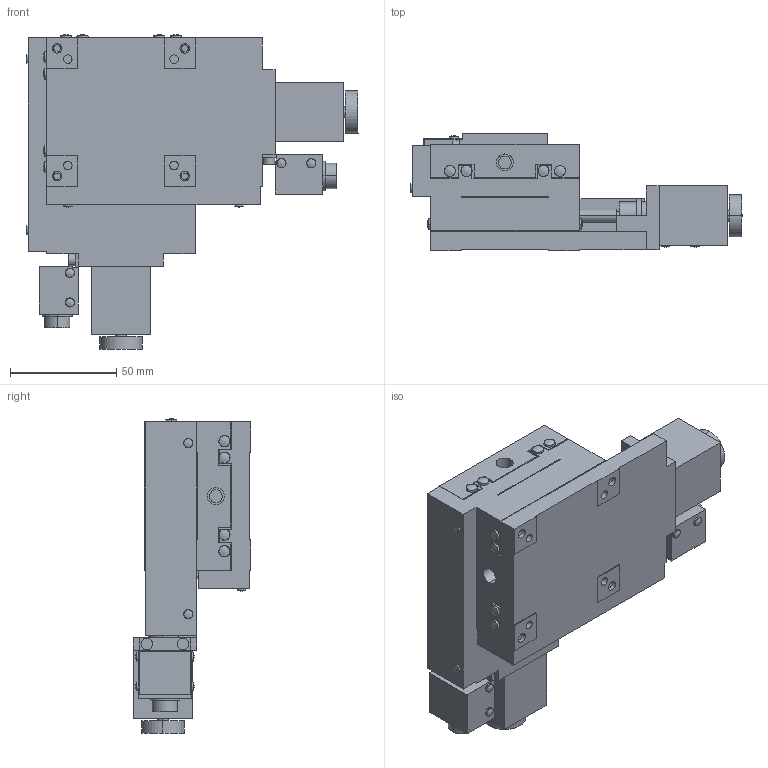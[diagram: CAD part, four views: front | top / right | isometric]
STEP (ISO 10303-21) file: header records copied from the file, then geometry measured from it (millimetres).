
FILE_DESCRIPTION (( 'STEP AP203' ), '1' );
FILE_NAME ('ALD-7013-G1M.STEP', '2010-12-21T03:50:35', ( ' ' ), ( ' ' ), 'SwSTEP 2.0', 'SolidWorks 2010', '' );
FILE_SCHEMA (( 'CONFIG_CONTROL_DESIGN' ));
Length unit declared in the file: millimetre
Products named in the file (4): ALD-7013-G1M; ALD-7013-G1M-1; ALD-7013-G1M-2; ALD-7013-G1M-3
Assembly tree (3 placements, depth 2):
  ALD-7013-G1M
    ALD-7013-G1M-2
    ALD-7013-G1M-3
    ALD-7013-G1M-1
Bounding box: 156.16 x 55.5 x 147.94 mm (x, y, z)
Volume: 388055.5 mm3; surface area: 118740.4 mm2
Topology: 3 solids, 9 shells, 600 faces, 1434 edges, 936 vertices
Faces by surface type: plane 298, cylinder 218, cone 56, bspline 28
Entity records: 23500 total; most frequent: CARTESIAN_POINT 8680, DIRECTION 3066, ORIENTED_EDGE 2868, EDGE_CURVE 1434, AXIS2_PLACEMENT_3D 1114, VERTEX_POINT 936, VECTOR 838, LINE 838
